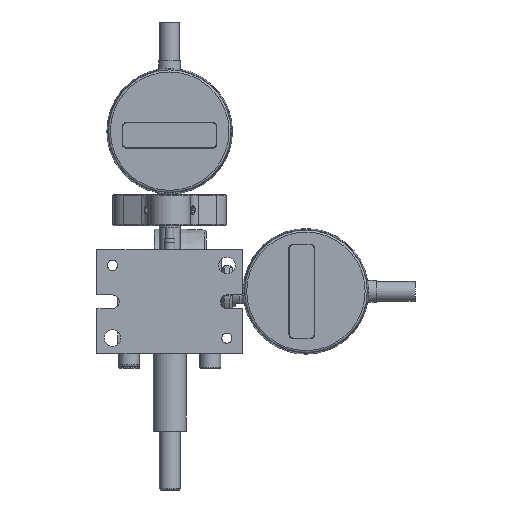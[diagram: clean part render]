
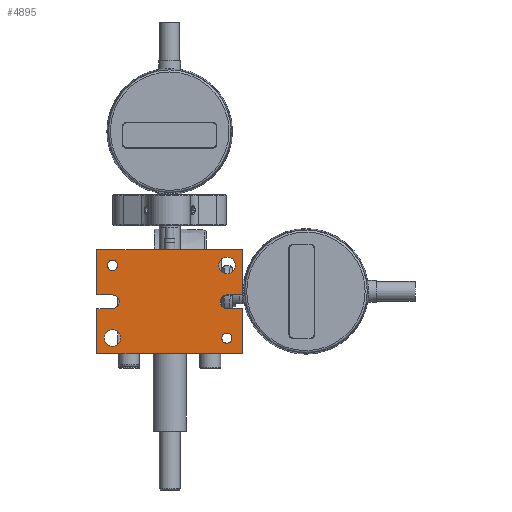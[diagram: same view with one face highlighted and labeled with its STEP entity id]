
A CAD part, left-side view. The second image highlights one B-rep face of the part: STEP entity #4895.
In plain terms, the highlighted planar face has unit normal (-1, 0, 0) as drawn and (0, 0, -1) by its records, which use the part's own axes.
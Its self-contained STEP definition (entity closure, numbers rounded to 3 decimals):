
#353=FACE_BOUND('',#861,.T.);
#354=FACE_BOUND('',#862,.T.);
#355=FACE_BOUND('',#863,.T.);
#356=FACE_BOUND('',#864,.T.);
#444=PLANE('',#5606);
#583=FACE_OUTER_BOUND('',#860,.T.);
#860=EDGE_LOOP('',(#3421,#3422,#3423,#3424,#3425,#3426,#3427,#3428,#3429,
#3430,#3431,#3432));
#861=EDGE_LOOP('',(#3433));
#862=EDGE_LOOP('',(#3434));
#863=EDGE_LOOP('',(#3435,#3436));
#864=EDGE_LOOP('',(#3437,#3438));
#1214=LINE('',#7863,#1547);
#1217=LINE('',#7869,#1550);
#1220=LINE('',#7876,#1553);
#1225=LINE('',#7890,#1558);
#1230=LINE('',#7899,#1563);
#1233=LINE('',#7905,#1566);
#1234=LINE('',#7908,#1567);
#1237=LINE('',#7913,#1570);
#1238=LINE('',#7915,#1571);
#1239=LINE('',#7916,#1572);
#1547=VECTOR('',#6248,10.);
#1550=VECTOR('',#6253,10.);
#1553=VECTOR('',#6258,10.);
#1558=VECTOR('',#6271,10.);
#1563=VECTOR('',#6278,10.);
#1566=VECTOR('',#6283,10.);
#1567=VECTOR('',#6286,10.);
#1570=VECTOR('',#6291,10.);
#1571=VECTOR('',#6292,10.);
#1572=VECTOR('',#6293,10.);
#1878=CIRCLE('',#5594,3.25);
#1880=CIRCLE('',#5600,3.25);
#1882=CIRCLE('',#5607,4.);
#1883=CIRCLE('',#5608,4.);
#1884=CIRCLE('',#5609,2.459);
#1885=CIRCLE('',#5610,2.459);
#1886=CIRCLE('',#5611,2.459);
#1887=CIRCLE('',#5612,2.459);
#2186=VERTEX_POINT('',#7853);
#2187=VERTEX_POINT('',#7854);
#2190=VERTEX_POINT('',#7862);
#2192=VERTEX_POINT('',#7868);
#2194=VERTEX_POINT('',#7874);
#2195=VERTEX_POINT('',#7875);
#2198=VERTEX_POINT('',#7883);
#2200=VERTEX_POINT('',#7889);
#2203=VERTEX_POINT('',#7897);
#2205=VERTEX_POINT('',#7903);
#2206=VERTEX_POINT('',#7907);
#2208=VERTEX_POINT('',#7914);
#2209=VERTEX_POINT('',#7917);
#2210=VERTEX_POINT('',#7919);
#2211=VERTEX_POINT('',#7921);
#2212=VERTEX_POINT('',#7922);
#2213=VERTEX_POINT('',#7925);
#2214=VERTEX_POINT('',#7926);
#2677=EDGE_CURVE('',#2186,#2187,#1878,.T.);
#2681=EDGE_CURVE('',#2187,#2190,#1214,.T.);
#2684=EDGE_CURVE('',#2192,#2186,#1217,.T.);
#2687=EDGE_CURVE('',#2194,#2195,#1220,.T.);
#2691=EDGE_CURVE('',#2195,#2198,#1880,.T.);
#2694=EDGE_CURVE('',#2198,#2200,#1225,.T.);
#2699=EDGE_CURVE('',#2203,#2190,#1230,.T.);
#2702=EDGE_CURVE('',#2205,#2200,#1233,.T.);
#2703=EDGE_CURVE('',#2194,#2206,#1234,.T.);
#2706=EDGE_CURVE('',#2206,#2203,#1237,.T.);
#2707=EDGE_CURVE('',#2208,#2205,#1238,.T.);
#2708=EDGE_CURVE('',#2192,#2208,#1239,.T.);
#2709=EDGE_CURVE('',#2209,#2209,#1882,.T.);
#2710=EDGE_CURVE('',#2210,#2210,#1883,.T.);
#2711=EDGE_CURVE('',#2211,#2212,#1884,.T.);
#2712=EDGE_CURVE('',#2212,#2211,#1885,.T.);
#2713=EDGE_CURVE('',#2213,#2214,#1886,.T.);
#2714=EDGE_CURVE('',#2214,#2213,#1887,.T.);
#3421=ORIENTED_EDGE('',*,*,#2684,.T.);
#3422=ORIENTED_EDGE('',*,*,#2677,.T.);
#3423=ORIENTED_EDGE('',*,*,#2681,.T.);
#3424=ORIENTED_EDGE('',*,*,#2699,.F.);
#3425=ORIENTED_EDGE('',*,*,#2706,.F.);
#3426=ORIENTED_EDGE('',*,*,#2703,.F.);
#3427=ORIENTED_EDGE('',*,*,#2687,.T.);
#3428=ORIENTED_EDGE('',*,*,#2691,.T.);
#3429=ORIENTED_EDGE('',*,*,#2694,.T.);
#3430=ORIENTED_EDGE('',*,*,#2702,.F.);
#3431=ORIENTED_EDGE('',*,*,#2707,.F.);
#3432=ORIENTED_EDGE('',*,*,#2708,.F.);
#3433=ORIENTED_EDGE('',*,*,#2709,.T.);
#3434=ORIENTED_EDGE('',*,*,#2710,.T.);
#3435=ORIENTED_EDGE('',*,*,#2711,.T.);
#3436=ORIENTED_EDGE('',*,*,#2712,.T.);
#3437=ORIENTED_EDGE('',*,*,#2713,.T.);
#3438=ORIENTED_EDGE('',*,*,#2714,.T.);
#4895=ADVANCED_FACE('',(#583,#353,#354,#355,#356),#444,.F.);
#5594=AXIS2_PLACEMENT_3D('',#7855,#6240,#6241);
#5600=AXIS2_PLACEMENT_3D('',#7884,#6264,#6265);
#5606=AXIS2_PLACEMENT_3D('',#7912,#6289,#6290);
#5607=AXIS2_PLACEMENT_3D('',#7918,#6294,#6295);
#5608=AXIS2_PLACEMENT_3D('',#7920,#6296,#6297);
#5609=AXIS2_PLACEMENT_3D('',#7923,#6298,#6299);
#5610=AXIS2_PLACEMENT_3D('',#7924,#6300,#6301);
#5611=AXIS2_PLACEMENT_3D('',#7927,#6302,#6303);
#5612=AXIS2_PLACEMENT_3D('',#7928,#6304,#6305);
#6240=DIRECTION('center_axis',(0.,0.,1.));
#6241=DIRECTION('ref_axis',(1.,0.,0.));
#6248=DIRECTION('',(0.,-1.,0.));
#6253=DIRECTION('',(0.,1.,0.));
#6258=DIRECTION('',(0.,-1.,0.));
#6264=DIRECTION('center_axis',(0.,0.,1.));
#6265=DIRECTION('ref_axis',(-1.,0.,0.));
#6271=DIRECTION('',(0.,1.,0.));
#6278=DIRECTION('',(1.,0.,0.));
#6283=DIRECTION('',(-1.,0.,0.));
#6286=DIRECTION('',(-1.,0.,0.));
#6289=DIRECTION('center_axis',(0.,0.,1.));
#6290=DIRECTION('ref_axis',(1.,0.,0.));
#6291=DIRECTION('',(0.,-1.,0.));
#6292=DIRECTION('',(0.,1.,0.));
#6293=DIRECTION('',(1.,0.,0.));
#6294=DIRECTION('center_axis',(0.,0.,1.));
#6295=DIRECTION('ref_axis',(1.,0.,0.));
#6296=DIRECTION('center_axis',(0.,0.,1.));
#6297=DIRECTION('ref_axis',(1.,0.,0.));
#6298=DIRECTION('center_axis',(0.,0.,1.));
#6299=DIRECTION('ref_axis',(-1.,0.,0.));
#6300=DIRECTION('center_axis',(0.,0.,1.));
#6301=DIRECTION('ref_axis',(-1.,0.,0.));
#6302=DIRECTION('center_axis',(0.,0.,1.));
#6303=DIRECTION('ref_axis',(-1.,0.,0.));
#6304=DIRECTION('center_axis',(0.,0.,1.));
#6305=DIRECTION('ref_axis',(-1.,0.,0.));
#7853=CARTESIAN_POINT('',(3.25,-27.5,-4.5));
#7854=CARTESIAN_POINT('',(-3.25,-27.5,-4.5));
#7855=CARTESIAN_POINT('Origin',(0.,-27.5,-4.5));
#7862=CARTESIAN_POINT('',(-3.25,-35.,-4.5));
#7863=CARTESIAN_POINT('',(-3.25,-13.75,-4.5));
#7868=CARTESIAN_POINT('',(3.25,-35.,-4.5));
#7869=CARTESIAN_POINT('',(3.25,-17.5,-4.5));
#7874=CARTESIAN_POINT('',(-3.25,35.,-4.5));
#7875=CARTESIAN_POINT('',(-3.25,27.5,-4.5));
#7876=CARTESIAN_POINT('',(-3.25,17.5,-4.5));
#7883=CARTESIAN_POINT('',(3.25,27.5,-4.5));
#7884=CARTESIAN_POINT('Origin',(0.,27.5,-4.5));
#7889=CARTESIAN_POINT('',(3.25,35.,-4.5));
#7890=CARTESIAN_POINT('',(3.25,13.75,-4.5));
#7897=CARTESIAN_POINT('',(-25.,-35.,-4.5));
#7899=CARTESIAN_POINT('',(-25.,-35.,-4.5));
#7903=CARTESIAN_POINT('',(25.,35.,-4.5));
#7905=CARTESIAN_POINT('',(25.,35.,-4.5));
#7907=CARTESIAN_POINT('',(-25.,35.,-4.5));
#7908=CARTESIAN_POINT('',(25.,35.,-4.5));
#7912=CARTESIAN_POINT('Origin',(0.,0.,-4.5));
#7913=CARTESIAN_POINT('',(-25.,35.,-4.5));
#7914=CARTESIAN_POINT('',(25.,-35.,-4.5));
#7915=CARTESIAN_POINT('',(25.,-35.,-4.5));
#7916=CARTESIAN_POINT('',(-25.,-35.,-4.5));
#7917=CARTESIAN_POINT('',(13.5,27.5,-4.5));
#7918=CARTESIAN_POINT('Origin',(17.5,27.5,-4.5));
#7919=CARTESIAN_POINT('',(-21.5,-27.5,-4.5));
#7920=CARTESIAN_POINT('Origin',(-17.5,-27.5,-4.5));
#7921=CARTESIAN_POINT('',(-19.959,27.5,-4.5));
#7922=CARTESIAN_POINT('',(-15.042,27.5,-4.5));
#7923=CARTESIAN_POINT('Origin',(-17.5,27.5,-4.5));
#7924=CARTESIAN_POINT('Origin',(-17.5,27.5,-4.5));
#7925=CARTESIAN_POINT('',(15.042,-27.5,-4.5));
#7926=CARTESIAN_POINT('',(19.959,-27.5,-4.5));
#7927=CARTESIAN_POINT('Origin',(17.5,-27.5,-4.5));
#7928=CARTESIAN_POINT('Origin',(17.5,-27.5,-4.5));
